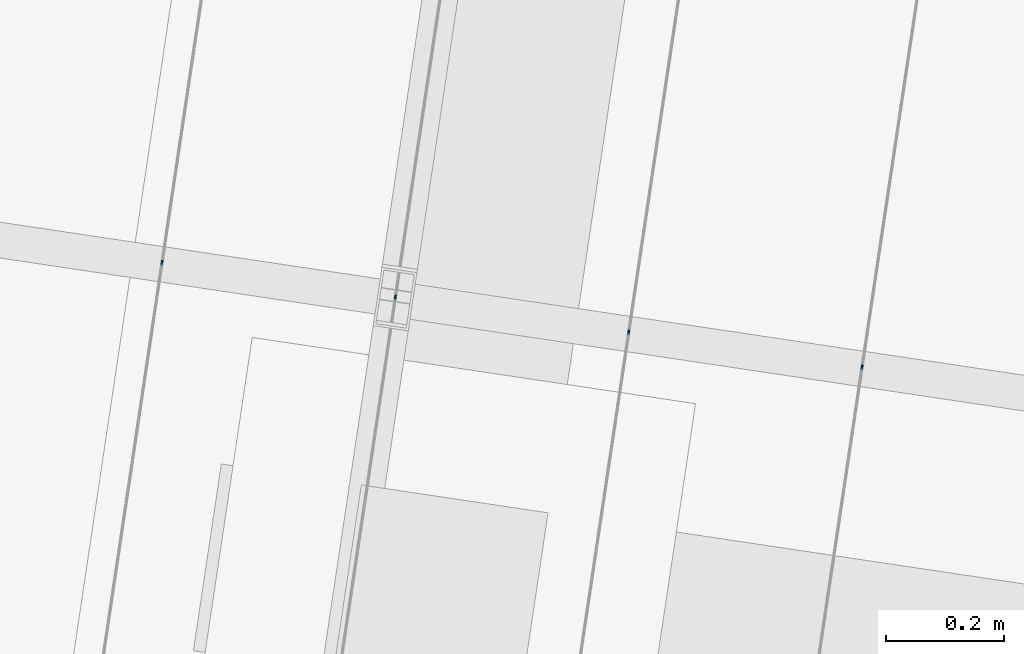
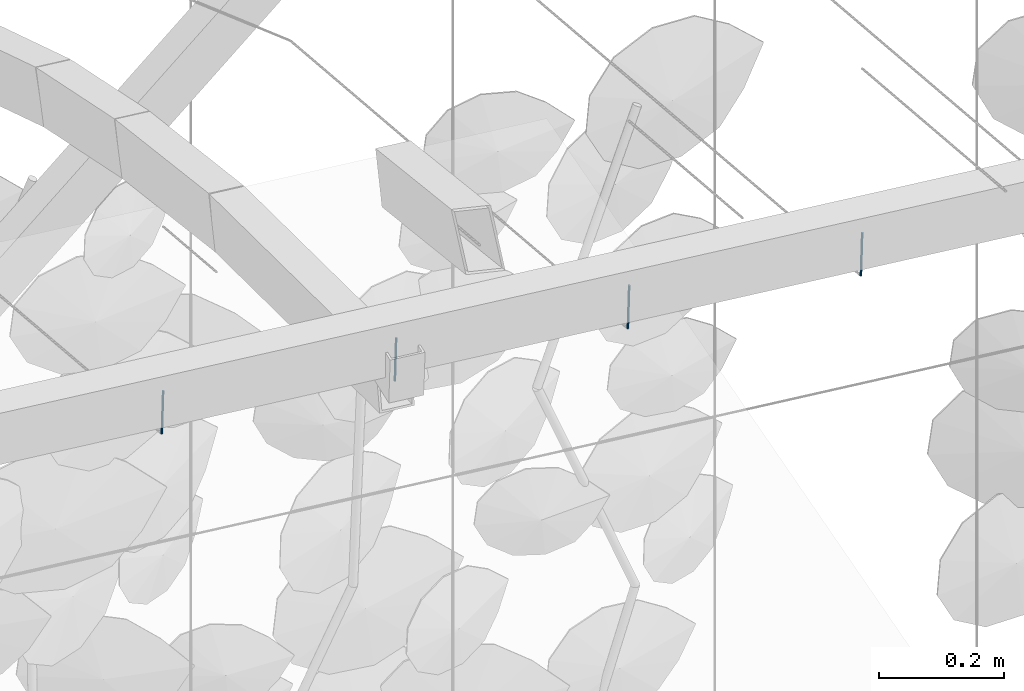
# One storey, part 132 of 142: 4 members, 1 element without a shape of its own.
"""IFC4 building model written with IfcOpenShell, lengths in metres."""

from ifc_helpers import new_model, si_unit, direction, frame, origin_with_axes, place, context, subcontext, project, spatial, circle, extrude, material, material_profile, profile_set, profile_usage, type_object, element, aggregate, save


model = new_model("IFC4")

# Units and contexts
model_context = context("Model", 3, precision=1e-05, world=origin_with_axes(), true_north=direction((0.0, 1.0)))
body_context = subcontext(model_context, "Body", "Model", "MODEL_VIEW")
ifc_project = project(units=[si_unit("AREAUNIT", "SQUARE_METRE"), si_unit("VOLUMEUNIT", "CUBIC_METRE"), si_unit("LENGTHUNIT", "METRE")], contexts=[model_context])

# Site, building, storey
site_placement = place(None, origin_with_axes())
site = spatial("IfcSite", under=ifc_project, at=site_placement, Name="Lares · Rua das Mercês · artigo 4771")
building_placement = place(site_placement, frame((15.0, 9.7, 14.65), z_axis=(0.0, 0.0, 1.0), x_axis=(0.989015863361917, -0.147809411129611, 0.0)))
building = spatial("IfcBuilding", under=site, at=building_placement, Name="Casa Sobreposta")
storey_placement = place(building_placement, origin_with_axes())
storey = spatial("IfcBuildingStorey", under=building, at=storey_placement, Name="00 · Habitação e estacionamento", Elevation=14.65)

# Assembly, members
assembly_placement = place(storey_placement, origin_with_axes())
assembly = element("IfcElementAssembly", 1, at=assembly_placement, inside=storey, Name="Pérgola · prolongamento da estufa 6 m", ObjectType="PERGOLA_GREENHOUSE_EXTENSION", PredefinedType="USERDEFINED")
ifc_material = material(Name="Aço galvanizado / Stahl verzinkt", Category="steel")
ifc_material_profile = material_profile(ifc_material, circle(Radius=0.002))
ifc_profile_set = profile_set([ifc_material_profile], Name="D0.004")
ifc_profile_usage_1 = profile_usage(ifc_profile_set)
member_type = type_object("IfcMemberType", Name="D0.004 / galvanized", PredefinedType="NOTDEFINED", material=ifc_profile_set)
member_1_placement = place(assembly_placement, frame((-3.4, 3.68002089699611, 7.30067689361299), z_axis=(0.0, 0.0651953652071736, -0.997872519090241), x_axis=(1.0, 0.0, 0.0)))
member_1 = element("IfcMember", 2, at=member_1_placement, type_object=member_type, material=ifc_profile_usage_1, Name="Pérgola · fio para trepadeiras", context=body_context, shape_type="SweptSolid", body=[
    extrude(circle(Radius=0.002), origin_with_axes(), (0.0, 0.0, 1.0), 0.0875840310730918),
])
ifc_profile_usage_2 = profile_usage(ifc_profile_set)
member_2_placement = place(assembly_placement, frame((-3.0, 3.68002089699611, 7.30067689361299), z_axis=(0.0, 0.0651953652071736, -0.997872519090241), x_axis=(1.0, 0.0, 0.0)))
member_2 = element("IfcMember", 3, at=member_2_placement, type_object=member_type, material=ifc_profile_usage_2, Name="Pérgola · fio para trepadeiras", context=body_context, shape_type="SweptSolid", body=[
    extrude(circle(Radius=0.002), origin_with_axes(), (0.0, 0.0, 1.0), 0.0875840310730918),
])
ifc_profile_usage_3 = profile_usage(ifc_profile_set)
member_3_placement = place(assembly_placement, frame((-2.6, 3.68002089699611, 7.30067689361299), z_axis=(0.0, 0.0651953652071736, -0.997872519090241), x_axis=(1.0, 0.0, 0.0)))
member_3 = element("IfcMember", 4, at=member_3_placement, type_object=member_type, material=ifc_profile_usage_3, Name="Pérgola · fio para trepadeiras", context=body_context, shape_type="SweptSolid", body=[
    extrude(circle(Radius=0.002), origin_with_axes(), (0.0, 0.0, 1.0), 0.0875840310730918),
])
ifc_profile_usage_4 = profile_usage(ifc_profile_set)
member_4_placement = place(assembly_placement, frame((-2.2, 3.68002089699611, 7.30067689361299), z_axis=(0.0, 0.0651953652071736, -0.997872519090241), x_axis=(1.0, 0.0, 0.0)))
member_4 = element("IfcMember", 5, at=member_4_placement, type_object=member_type, material=ifc_profile_usage_4, Name="Pérgola · fio para trepadeiras", context=body_context, shape_type="SweptSolid", body=[
    extrude(circle(Radius=0.002), origin_with_axes(), (0.0, 0.0, 1.0), 0.0875840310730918),
])
aggregate(assembly, [member_1, member_2, member_3, member_4])

save(model, "model.ifc")
